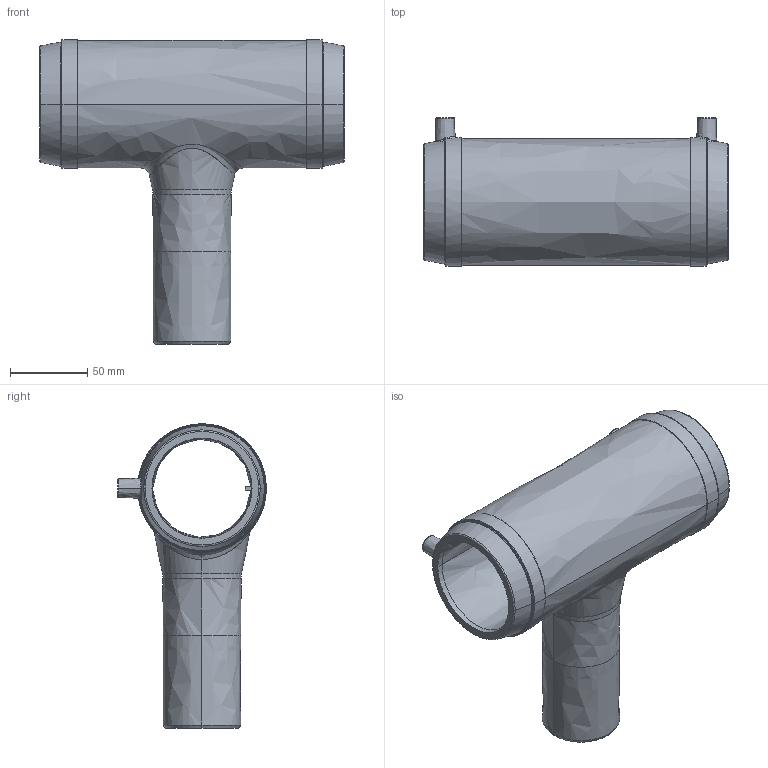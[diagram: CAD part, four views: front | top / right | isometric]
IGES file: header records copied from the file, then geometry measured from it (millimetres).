
Start section:  PTC IGES file: ta_red_d63-50_01.igs
Global section: file name: ta_red_d63-50_01.igs; native system: Pro/ENGINEER by Parametric Technology Corporation; preprocessor: 2011490; author: mtunjic; organization: Unknown; date: 20130812.125516; units: millimetre
Bounding box: 197 x 96 x 196.55 mm (x, y, z)
Surface area: 126197.8 mm2 (no closed solid volume)
Topology: 0 solids, 0 shells, 213 faces, 1050 edges, 1050 vertices
Faces by surface type: bspline 213
